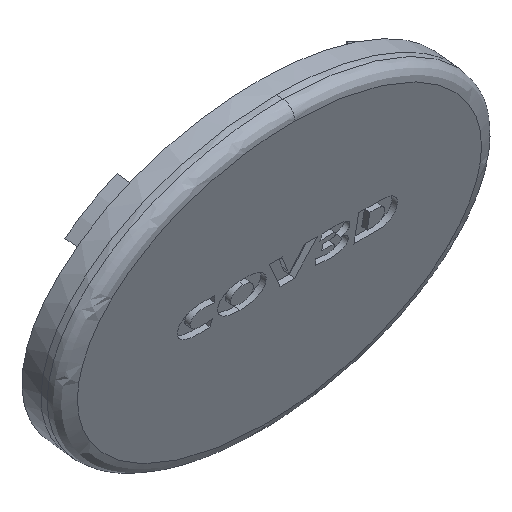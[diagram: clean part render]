
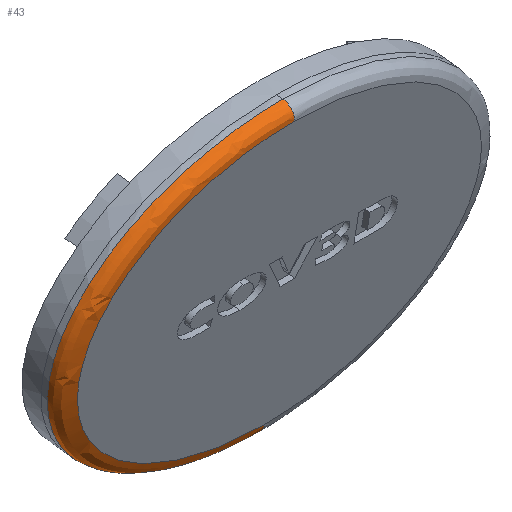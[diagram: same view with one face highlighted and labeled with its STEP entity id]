
A CAD part, isometric view. The second image highlights one B-rep face of the part: STEP entity #43.
In plain terms, the highlighted free-form (B-spline) face has degree [2, 2] with [3, 5] control points.
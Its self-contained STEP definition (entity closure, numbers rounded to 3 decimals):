
#43=ADVANCED_FACE('',(#110),#1043,.T.);
#110=FACE_OUTER_BOUND('',#186,.T.);
#186=EDGE_LOOP('',(#321,#322,#323,#324));
#321=ORIENTED_EDGE('',*,*,#577,.F.);
#322=ORIENTED_EDGE('',*,*,#578,.T.);
#323=ORIENTED_EDGE('',*,*,#579,.T.);
#324=ORIENTED_EDGE('',*,*,#713,.F.);
#577=EDGE_CURVE('',#888,#977,#727,.T.);
#578=EDGE_CURVE('',#888,#889,#728,.T.);
#579=EDGE_CURVE('',#889,#978,#729,.T.);
#713=EDGE_CURVE('',#977,#978,#746,.T.);
#727=(
BOUNDED_CURVE()
B_SPLINE_CURVE(2,(#2068,#2069,#2070,#2071,#2072),.UNSPECIFIED.,.F.,.F.)
B_SPLINE_CURVE_WITH_KNOTS((3,2,3),(0.,43.396,86.792),
 .UNSPECIFIED.)
CURVE()
GEOMETRIC_REPRESENTATION_ITEM()
RATIONAL_B_SPLINE_CURVE((1.,0.707,1.,0.707,1.))
REPRESENTATION_ITEM('')
);
#728=(
BOUNDED_CURVE()
B_SPLINE_CURVE(2,(#2073,#2074,#2075),.UNSPECIFIED.,.F.,.F.)
B_SPLINE_CURVE_WITH_KNOTS((3,3),(0.,3.727),.UNSPECIFIED.)
CURVE()
GEOMETRIC_REPRESENTATION_ITEM()
RATIONAL_B_SPLINE_CURVE((1.,0.707,1.))
REPRESENTATION_ITEM('')
);
#729=(
BOUNDED_CURVE()
B_SPLINE_CURVE(2,(#2076,#2077,#2078,#2079,#2080),.UNSPECIFIED.,.F.,.F.)
B_SPLINE_CURVE_WITH_KNOTS((3,2,3),(0.,43.396,86.792),
 .UNSPECIFIED.)
CURVE()
GEOMETRIC_REPRESENTATION_ITEM()
RATIONAL_B_SPLINE_CURVE((1.,0.707,1.,0.707,1.))
REPRESENTATION_ITEM('')
);
#746=(
BOUNDED_CURVE()
B_SPLINE_CURVE(2,(#2816,#2817,#2818),.UNSPECIFIED.,.F.,.F.)
B_SPLINE_CURVE_WITH_KNOTS((3,3),(0.,3.727),.UNSPECIFIED.)
CURVE()
GEOMETRIC_REPRESENTATION_ITEM()
RATIONAL_B_SPLINE_CURVE((1.,0.707,1.))
REPRESENTATION_ITEM('')
);
#888=VERTEX_POINT('',#1920);
#889=VERTEX_POINT('',#1921);
#977=VERTEX_POINT('',#2009);
#978=VERTEX_POINT('',#2010);
#1043=(
BOUNDED_SURFACE()
B_SPLINE_SURFACE(2,2,((#1190,#1191,#1192,#1193,#1194),(#1195,#1196,#1197,
#1198,#1199),(#1200,#1201,#1202,#1203,#1204)),.UNSPECIFIED.,.F.,.F.,.F.)
B_SPLINE_SURFACE_WITH_KNOTS((3,3),(3,2,3),(0.,3.727),(0.,43.396,
86.792),.UNSPECIFIED.)
GEOMETRIC_REPRESENTATION_ITEM()
RATIONAL_B_SPLINE_SURFACE(((1.,0.707,1.,0.707,1.),
(0.707,0.5,0.707,0.5,
0.707),(1.,0.707,1.,0.707,1.)))
REPRESENTATION_ITEM('')
SURFACE()
);
#1190=CARTESIAN_POINT('',(-0.114,-104.367,-19.512));
#1191=CARTESIAN_POINT('',(-39.932,-104.319,-19.506));
#1192=CARTESIAN_POINT('',(-39.932,-107.281,7.968));
#1193=CARTESIAN_POINT('',(-39.932,-110.243,35.443));
#1194=CARTESIAN_POINT('',(-0.114,-110.291,35.438));
#1195=CARTESIAN_POINT('',(-0.116,-106.726,-19.766));
#1196=CARTESIAN_POINT('',(-39.935,-106.678,-19.761));
#1197=CARTESIAN_POINT('',(-39.935,-109.64,7.714));
#1198=CARTESIAN_POINT('',(-39.935,-112.603,35.189));
#1199=CARTESIAN_POINT('',(-0.116,-112.651,35.183));
#1200=CARTESIAN_POINT('',(-0.116,-106.96,-17.593));
#1201=CARTESIAN_POINT('',(-36.786,-106.916,-17.588));
#1202=CARTESIAN_POINT('',(-36.786,-109.644,7.713));
#1203=CARTESIAN_POINT('',(-36.786,-112.372,33.015));
#1204=CARTESIAN_POINT('',(-0.116,-112.416,33.01));
#1920=CARTESIAN_POINT('',(-0.114,-104.367,-19.512));
#1921=CARTESIAN_POINT('',(-0.116,-106.96,-17.593));
#2009=CARTESIAN_POINT('',(-0.114,-110.291,35.438));
#2010=CARTESIAN_POINT('',(-0.116,-112.416,33.01));
#2068=CARTESIAN_POINT('',(-0.114,-104.367,-19.512));
#2069=CARTESIAN_POINT('',(-39.932,-104.319,-19.506));
#2070=CARTESIAN_POINT('',(-39.932,-107.281,7.968));
#2071=CARTESIAN_POINT('',(-39.932,-110.243,35.443));
#2072=CARTESIAN_POINT('',(-0.114,-110.291,35.438));
#2073=CARTESIAN_POINT('',(-0.114,-104.367,-19.512));
#2074=CARTESIAN_POINT('',(-0.116,-106.726,-19.766));
#2075=CARTESIAN_POINT('',(-0.116,-106.96,-17.593));
#2076=CARTESIAN_POINT('',(-0.116,-106.96,-17.593));
#2077=CARTESIAN_POINT('',(-36.786,-106.916,-17.588));
#2078=CARTESIAN_POINT('',(-36.786,-109.644,7.713));
#2079=CARTESIAN_POINT('',(-36.786,-112.372,33.015));
#2080=CARTESIAN_POINT('',(-0.116,-112.416,33.01));
#2816=CARTESIAN_POINT('',(-0.114,-110.291,35.438));
#2817=CARTESIAN_POINT('',(-0.116,-112.651,35.183));
#2818=CARTESIAN_POINT('',(-0.116,-112.416,33.01));
